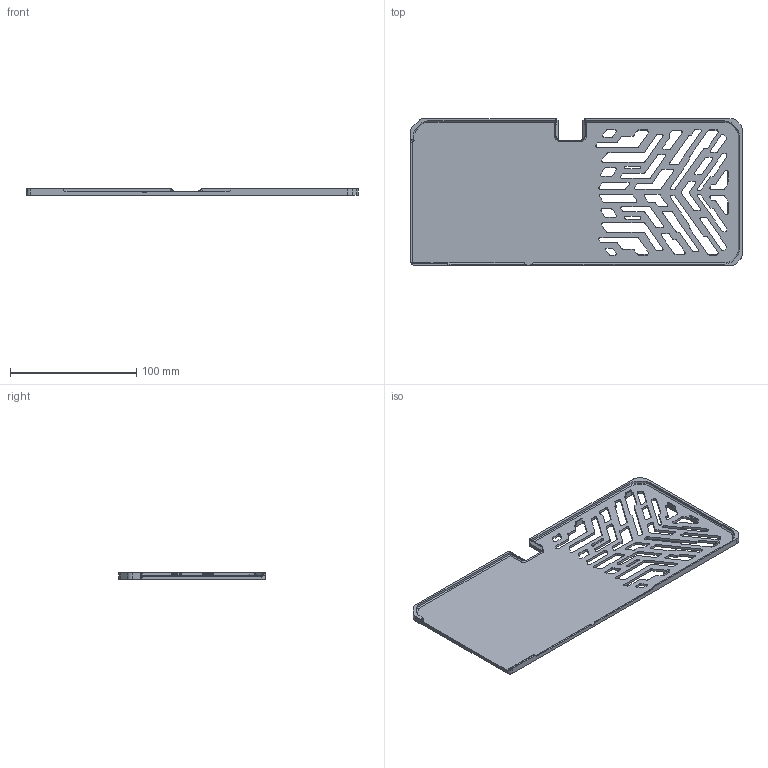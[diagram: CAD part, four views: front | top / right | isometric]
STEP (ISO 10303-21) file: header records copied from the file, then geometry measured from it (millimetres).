
FILE_DESCRIPTION((''),'2;1');
FILE_NAME('PC013-1B0_BACKPLATE_2','2025-04-23T13:33:59',('Kate'),(''),'CREO PARAMETRIC BY PTC INC, 2021304','CREO PARAMETRIC BY PTC INC, 2021304','');
FILE_SCHEMA(('AUTOMOTIVE_DESIGN { 1 0 10303 214 1 1 1 1 }'));
Length unit declared in the file: millimetre
Products named in the file (1): PC013-1B0_BACKPLATE_2
Bounding box: 263.1 x 116.25 x 4.8 mm (x, y, z)
Volume: 53904.1 mm3; surface area: 59614.6 mm2
Topology: 1 solids, 1 shells, 500 faces, 1458 edges, 960 vertices
Faces by surface type: plane 254, cylinder 205, extrusion 20, cone 13, bspline 4, revolution 4
Entity records: 17923 total; most frequent: CARTESIAN_POINT 3642, ORIENTED_EDGE 2916, DIRECTION 2753, EDGE_CURVE 1458, VECTOR 983, LINE 963, VERTEX_POINT 960, AXIS2_PLACEMENT_3D 883
